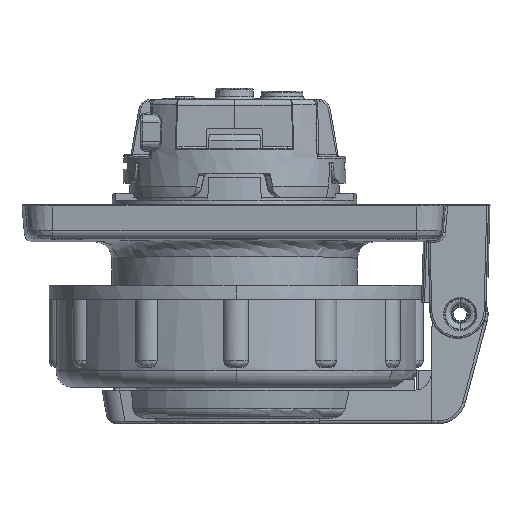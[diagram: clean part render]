
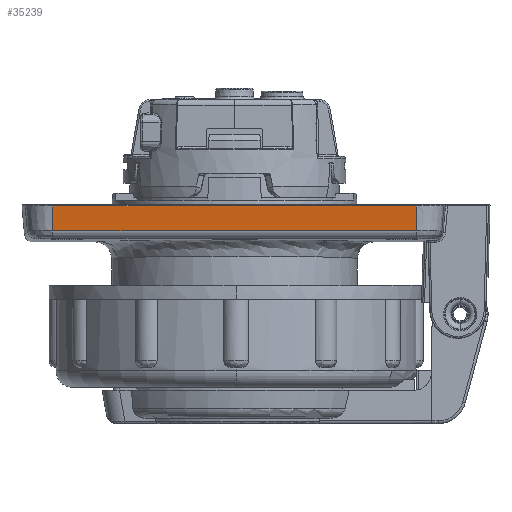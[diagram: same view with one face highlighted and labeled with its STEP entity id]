
A CAD part, front view. The second image highlights one B-rep face of the part: STEP entity #35239.
In plain terms, the highlighted planar face has unit normal (0, -0.996, -0.087).
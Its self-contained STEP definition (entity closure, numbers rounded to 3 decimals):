
#5674=DIRECTION('',(0.,-0.087,0.996));
#5675=VECTOR('',#5674,4.463);
#5676=CARTESIAN_POINT('',(-32.501,-37.092,
-3.714));
#5677=LINE('1458',#5676,#5675);
#5696=DIRECTION('',(1.,0.,0.));
#5697=VECTOR('',#5696,65.002);
#5698=CARTESIAN_POINT('',(-32.501,-37.481,
0.733));
#5699=LINE('1453',#5698,#5697);
#5703=DIRECTION('',(0.,-0.087,0.996));
#5704=VECTOR('',#5703,4.463);
#5705=CARTESIAN_POINT('',(32.501,-37.092,
-3.714));
#5706=LINE('1459',#5705,#5704);
#5710=DIRECTION('',(-1.,0.,0.));
#5711=VECTOR('',#5710,65.001);
#5712=CARTESIAN_POINT('',(32.501,-37.092,
-3.714));
#5713=LINE('1320',#5712,#5711);
#5742=CARTESIAN_POINT('',(32.501,-37.092,
-3.714));
#26168=VERTEX_POINT('',#5742);
#26171=CARTESIAN_POINT('',(-32.501,-37.092,
-3.714));
#26172=VERTEX_POINT('',#26171);
#26361=CARTESIAN_POINT('',(32.501,-37.481,
0.733));
#26362=VERTEX_POINT('',#26361);
#26365=CARTESIAN_POINT('',(-32.501,-37.481,
0.733));
#26366=VERTEX_POINT('',#26365);
#35227=CARTESIAN_POINT('',(34.701,-37.5,0.95));
#35228=DIRECTION('',(0.,-0.996,-0.087));
#35229=DIRECTION('',(1.,0.,0.));
#35230=AXIS2_PLACEMENT_3D('',#35227,#35228,#35229);
#35231=PLANE('62',#35230);
#35232=ORIENTED_EDGE('1453',*,*,#33183,.T.);
#35234=ORIENTED_EDGE('1459',*,*,#35233,.F.);
#35235=ORIENTED_EDGE('1320',*,*,#35069,.T.);
#35236=ORIENTED_EDGE('1458',*,*,#35208,.T.);
#35237=EDGE_LOOP('62',(#35232,#35234,#35235,#35236));
#35238=FACE_OUTER_BOUND('62',#35237,.F.);
#33183=EDGE_CURVE('1453',#26366,#26362,#5699,.T.);
#35069=EDGE_CURVE('1320',#26168,#26172,#5713,.T.);
#35208=EDGE_CURVE('1458',#26172,#26366,#5677,.T.);
#35233=EDGE_CURVE('1459',#26168,#26362,#5706,.T.);
#35239=ADVANCED_FACE('62',(#35238),#35231,.T.);
